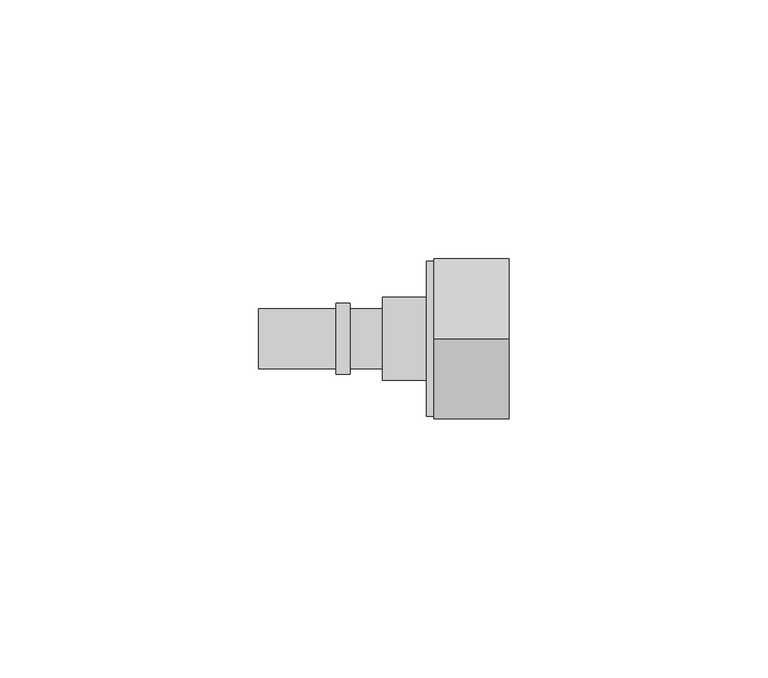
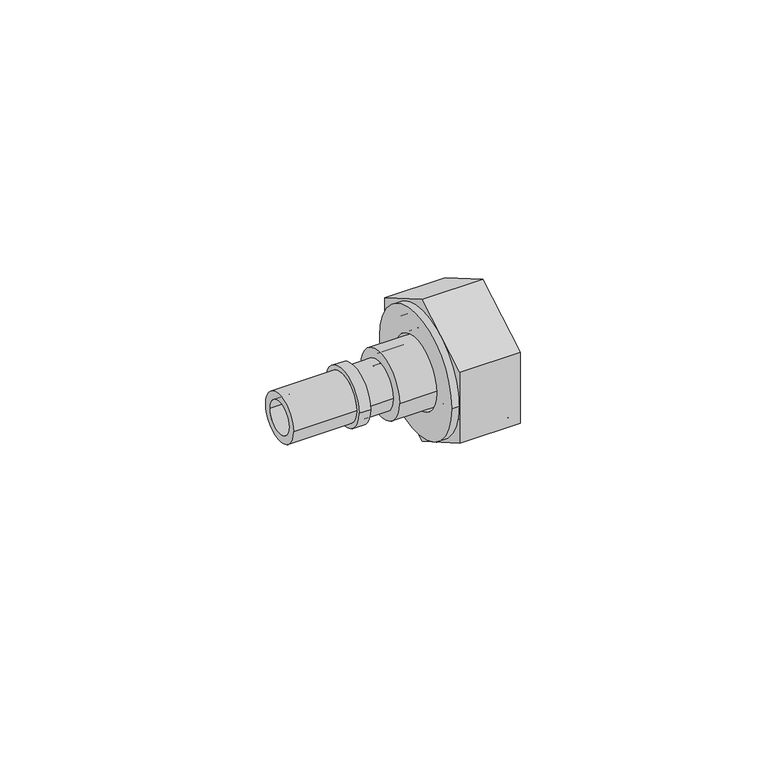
"""IFC4 building model written with IfcOpenShell, lengths in millimetres: pipe fitting geometry, FASTLOC_Adapter with union nut LX : FSL A union nut PL."""

from ifc_helpers import new_model, si_unit, point, frame, origin, origin_2d, place, context, project, spatial, polyline, circle_curve, trimmed, segment, composite_curve, outline, extrude, source, transform, mapped, element, save
from ifc_brep_helpers import plane_surface, cylinder_surface, revolved_surface, advanced_brep


def pipe_fitting_50501386(model_context):
    return source(origin(), model_context, "Body", "SolidModel", [
        advanced_brep(
        [(12.0, 8.0, 0.0), (12.0, -8.0, 0.0), (0.0, -8.0, 0.0), (0.0, 8.0, 0.0), (14.0, 12.1, 0.0), (14.0, -12.1, 0.0), (12.0, -12.1, 0.0), (12.0, 12.1, 0.0), (1.4730817, 6.25, 0.0), (1.4730817, -6.25, 0.0), (14.0, -6.25, 0.0), (14.0, 6.25, 0.0), (0.0, 4.0764556, 0.0), (0.0, -4.0764556, 0.0), (1.4730817, -4.0764556, 0.0), (1.4730817, 4.0764556, 0.0)],
        [
            (0, 1, circle_curve(frame((12.0, 0.0, 0.0), z_axis=(-1.0, 0.0, 0.0), x_axis=(0.0, -1.0, 0.0)), 8.0)),
            (1, 2),
            (2, 3, circle_curve(frame((0.0, 0.0, 0.0), z_axis=(1.0, 0.0, 0.0), x_axis=(0.0, -1.0, 0.0)), 8.0)),
            (3, 0),
            (4, 5, circle_curve(frame((14.0, 0.0, 0.0), z_axis=(-1.0, 0.0, 0.0), x_axis=(0.0, -1.0, 0.0)), 12.1)),
            (5, 6),
            (6, 7, circle_curve(frame((12.0, 0.0, 0.0), z_axis=(1.0, 0.0, 0.0), x_axis=(0.0, -1.0, 0.0)), 12.1)),
            (7, 4),
            (8, 9, circle_curve(frame((1.4730817, 0.0, 0.0), z_axis=(-1.0, 0.0, 0.0), x_axis=(0.0, -1.0, 0.0)), 6.25)),
            (9, 10),
            (10, 11, circle_curve(frame((14.0, 0.0, 0.0), z_axis=(1.0, 0.0, 0.0), x_axis=(0.0, -1.0, 0.0)), 6.25)),
            (11, 8),
            (12, 13, circle_curve(frame((0.0, 0.0, 0.0), z_axis=(-1.0, 0.0, 0.0), x_axis=(0.0, -1.0, 0.0)), 4.0764556)),
            (13, 14),
            (14, 15, circle_curve(frame((1.4730817, 0.0, 0.0), z_axis=(1.0, 0.0, 0.0), x_axis=(0.0, -1.0, 0.0)), 4.0764556)),
            (15, 12),
            (2, 3, circle_curve(frame((0.0, 0.0, 0.0), z_axis=(-1.0, 0.0, 0.0), x_axis=(0.0, 1.0, 0.0)), 8.0)),
            (12, 13, circle_curve(frame((0.0, 0.0, 0.0), z_axis=(1.0, 0.0, 0.0), x_axis=(0.0, 1.0, 0.0)), 4.0764556)),
            (1, 0, circle_curve(frame((12.0, 0.0, 0.0), z_axis=(-1.0, 0.0, 0.0), x_axis=(0.0, 1.0, 0.0)), 8.0)),
            (6, 7, circle_curve(frame((12.0, 0.0, 0.0), z_axis=(-1.0, 0.0, 0.0), x_axis=(0.0, 1.0, 0.0)), 12.1)),
            (5, 4, circle_curve(frame((14.0, 0.0, 0.0), z_axis=(-1.0, 0.0, 0.0), x_axis=(0.0, 1.0, 0.0)), 12.1)),
            (10, 11, circle_curve(frame((14.0, 0.0, 0.0), z_axis=(-1.0, 0.0, 0.0), x_axis=(0.0, 1.0, 0.0)), 6.25)),
            (9, 8, circle_curve(frame((1.4730817, 0.0, 0.0), z_axis=(-1.0, 0.0, 0.0), x_axis=(0.0, 1.0, 0.0)), 6.25)),
            (14, 15, circle_curve(frame((1.4730817, 0.0, 0.0), z_axis=(-1.0, 0.0, 0.0), x_axis=(0.0, 1.0, 0.0)), 4.0764556)),
        ],
        [
            cylinder_surface(frame((0.0, 0.0, 0.0), z_axis=(1.0, 0.0, 0.0), x_axis=(0.0, -1.0, 0.0)), 8.0),
            cylinder_surface(frame((0.0, 0.0, 0.0), z_axis=(1.0, 0.0, 0.0), x_axis=(0.0, -1.0, 0.0)), 12.1),
            revolved_surface(polyline([(14.0, -6.25, 0.0), (1.4730817, -6.25, 0.0)]), (0.0, 0.0, 0.0), (1.0, 0.0, 0.0)),
            revolved_surface(polyline([(1.4730817, -4.0764556, 0.0), (0.0, -4.0764556, 0.0)]), (0.0, 0.0, 0.0), (1.0, 0.0, 0.0)),
            plane_surface(frame((0.0, 0.0, 0.0), z_axis=(-1.0, 0.0, 0.0), x_axis=(0.0, 1.0, 0.0))),
            cylinder_surface(frame((0.0, 0.0, 0.0), z_axis=(1.0, 0.0, 0.0), x_axis=(0.0, 1.0, 0.0)), 8.0),
            plane_surface(frame((12.0, 0.0, 0.0), z_axis=(-1.0, 0.0, 0.0), x_axis=(0.0, 1.0, 0.0))),
            cylinder_surface(frame((0.0, 0.0, 0.0), z_axis=(1.0, 0.0, 0.0), x_axis=(0.0, 1.0, 0.0)), 12.1),
            plane_surface(frame((14.0, 0.0, 0.0), z_axis=(1.0, 0.0, 0.0), x_axis=(0.0, 1.0, 0.0))),
            revolved_surface(polyline([(14.0, 6.25, 0.0), (1.4730817, 6.25, 0.0)]), (0.0, 0.0, 0.0), (1.0, 0.0, 0.0)),
            plane_surface(frame((1.4730817, 0.0, 0.0), z_axis=(1.0, 0.0, 0.0), x_axis=(0.0, 1.0, 0.0))),
            revolved_surface(polyline([(1.4730817, 4.0764556, 0.0), (0.0, 4.0764556, 0.0)]), (0.0, 0.0, 0.0), (1.0, 0.0, 0.0)),
        ],
        [
            (0, [[1, 2, 3, 4]]),
            (1, [[5, 6, 7, 8]]),
            (2, [[9, 10, 11, 12]]),
            (3, [[13, 14, 15, 16]]),
            (4, [[17, -3], [18, -13]]),
            (5, [[19, -4, -17, -2]]),
            (6, [[20, -7], [-19, -1]]),
            (7, [[21, -8, -20, -6]]),
            (8, [[-21, -5], [22, -11]]),
            (9, [[23, -12, -22, -10]]),
            (10, [[-23, -9], [24, -15]]),
            (11, [[-18, -16, -24, -14]]),
        ],
    ),
        advanced_brep(
        [(24.5, 15.0, 0.0), (24.5, -15.0, 0.0), (8.5, -15.0, 0.0), (8.5, 15.0, 0.0), (12.0, 12.1, 0.0), (12.0, -12.1, 0.0), (24.5, -12.1, 0.0), (24.5, 12.1, 0.0), (8.5, 8.6, 0.0), (8.5, -8.6, 0.0), (12.0, -8.6, 0.0), (12.0, 8.6, 0.0)],
        [
            (0, 1, circle_curve(frame((24.5, 0.0, 0.0), z_axis=(-1.0, 0.0, 0.0), x_axis=(0.0, -1.0, 0.0)), 15.0)),
            (1, 2),
            (2, 3, circle_curve(frame((8.5, 0.0, 0.0), z_axis=(1.0, 0.0, 0.0), x_axis=(0.0, -1.0, 0.0)), 15.0)),
            (3, 0),
            (4, 5, circle_curve(frame((12.0, 0.0, 0.0), z_axis=(-1.0, 0.0, 0.0), x_axis=(0.0, -1.0, 0.0)), 12.1)),
            (5, 6),
            (6, 7, circle_curve(frame((24.5, 0.0, 0.0), z_axis=(1.0, 0.0, 0.0), x_axis=(0.0, -1.0, 0.0)), 12.1)),
            (7, 4),
            (8, 9, circle_curve(frame((8.5, 0.0, 0.0), z_axis=(-1.0, 0.0, 0.0), x_axis=(0.0, -1.0, 0.0)), 8.6)),
            (9, 10),
            (10, 11, circle_curve(frame((12.0, 0.0, 0.0), z_axis=(1.0, 0.0, 0.0), x_axis=(0.0, -1.0, 0.0)), 8.6)),
            (11, 8),
            (1, 0, circle_curve(frame((24.5, 0.0, 0.0), z_axis=(-1.0, 0.0, 0.0), x_axis=(0.0, 1.0, 0.0)), 15.0)),
            (3, 2, circle_curve(frame((8.5, 0.0, 0.0), z_axis=(1.0, 0.0, 0.0), x_axis=(0.0, 1.0, 0.0)), 15.0)),
            (6, 7, circle_curve(frame((24.5, 0.0, 0.0), z_axis=(-1.0, 0.0, 0.0), x_axis=(0.0, 1.0, 0.0)), 12.1)),
            (5, 4, circle_curve(frame((12.0, 0.0, 0.0), z_axis=(-1.0, 0.0, 0.0), x_axis=(0.0, 1.0, 0.0)), 12.1)),
            (10, 11, circle_curve(frame((12.0, 0.0, 0.0), z_axis=(-1.0, 0.0, 0.0), x_axis=(0.0, 1.0, 0.0)), 8.6)),
            (9, 8, circle_curve(frame((8.5, 0.0, 0.0), z_axis=(-1.0, 0.0, 0.0), x_axis=(0.0, 1.0, 0.0)), 8.6)),
        ],
        [
            cylinder_surface(frame((0.0, 0.0, 0.0), z_axis=(1.0, 0.0, 0.0), x_axis=(0.0, -1.0, 0.0)), 15.0),
            revolved_surface(polyline([(24.5, -12.1, 0.0), (12.0, -12.1, 0.0)]), (0.0, 0.0, 0.0), (1.0, 0.0, 0.0)),
            revolved_surface(polyline([(12.0, -8.6, 0.0), (8.5, -8.6, 0.0)]), (0.0, 0.0, 0.0), (1.0, 0.0, 0.0)),
            cylinder_surface(frame((0.0, 0.0, 0.0), z_axis=(1.0, 0.0, 0.0), x_axis=(0.0, 1.0, 0.0)), 15.0),
            plane_surface(frame((24.5, 0.0, 0.0), z_axis=(1.0, 0.0, 0.0), x_axis=(0.0, 1.0, 0.0))),
            revolved_surface(polyline([(24.5, 12.1, 0.0), (12.0, 12.1, 0.0)]), (0.0, 0.0, 0.0), (1.0, 0.0, 0.0)),
            plane_surface(frame((12.0, 0.0, 0.0), z_axis=(1.0, 0.0, 0.0), x_axis=(0.0, 1.0, 0.0))),
            revolved_surface(polyline([(12.0, 8.6, 0.0), (8.5, 8.6, 0.0)]), (0.0, 0.0, 0.0), (1.0, 0.0, 0.0)),
            plane_surface(frame((8.5, 0.0, 0.0), z_axis=(-1.0, 0.0, 0.0), x_axis=(0.0, 1.0, 0.0))),
        ],
        [
            (0, [[1, 2, 3, 4]]),
            (1, [[5, 6, 7, 8]]),
            (2, [[9, 10, 11, 12]]),
            (3, [[13, -4, 14, -2]]),
            (4, [[-13, -1], [15, -7]]),
            (5, [[16, -8, -15, -6]]),
            (6, [[-16, -5], [17, -11]]),
            (7, [[18, -12, -17, -10]]),
            (8, [[-14, -3], [-18, -9]]),
        ],
    ),
        extrude(outline(polyline([(0.0, -17.8978583), (-15.5, -8.9489292), (-15.5, 8.9489292), (0.0, 17.8978583), (15.5, 8.9489292), (15.5, -8.9489292), (0.0, -17.8978583)]), holes=[composite_curve([segment(trimmed(circle_curve(origin_2d(), 12.1), [point((-12.1, 0.0))], [point((12.1, 0.0))], True, "CARTESIAN"), True, "CONTINUOUS"), segment(trimmed(circle_curve(origin_2d(), 12.1), [point((12.1, 0.0))], [point((-12.1, 0.0))], True, "CARTESIAN"), True, "CONTINUOUS")], self_intersect=False)]), frame((10.0, 0.0, 0.0), z_axis=(1.0, 0.0, 0.0), x_axis=(0.0, 1.0, 0.0)), (0.0, 0.0, 1.0), 14.5),
        advanced_brep(
        [(-9.0, 5.8, 0.0), (-9.0, -5.8, 0.0), (-24.0, -5.8, 0.0), (-24.0, 5.8, 0.0), (-6.3, 6.9, 0.0), (-6.3, -6.9, 0.0), (-9.0, -6.9, 0.0), (-9.0, 6.9, 0.0), (0.0, 5.8, 0.0), (0.0, -5.8, 0.0), (-6.3, -5.8, 0.0), (-6.3, 5.8, 0.0), (-24.0, 3.95, 0.0), (-24.0, -3.95, 0.0), (0.0, -3.95, 0.0), (0.0, 3.95, 0.0)],
        [
            (0, 1, circle_curve(frame((-9.0, 0.0, 0.0), z_axis=(-1.0, 0.0, 0.0), x_axis=(0.0, -1.0, 0.0)), 5.8)),
            (1, 2),
            (2, 3, circle_curve(frame((-24.0, 0.0, 0.0), z_axis=(1.0, 0.0, 0.0), x_axis=(0.0, -1.0, 0.0)), 5.8)),
            (3, 0),
            (4, 5, circle_curve(frame((-6.3, 0.0, 0.0), z_axis=(-1.0, 0.0, 0.0), x_axis=(0.0, -1.0, 0.0)), 6.9)),
            (5, 6),
            (6, 7, circle_curve(frame((-9.0, 0.0, 0.0), z_axis=(1.0, 0.0, 0.0), x_axis=(0.0, -1.0, 0.0)), 6.9)),
            (7, 4),
            (8, 9, circle_curve(frame((0.0, 0.0, 0.0), z_axis=(-1.0, 0.0, 0.0), x_axis=(0.0, -1.0, 0.0)), 5.8)),
            (9, 10),
            (10, 11, circle_curve(frame((-6.3, 0.0, 0.0), z_axis=(1.0, 0.0, 0.0), x_axis=(0.0, -1.0, 0.0)), 5.8)),
            (11, 8),
            (12, 13, circle_curve(frame((-24.0, 0.0, 0.0), z_axis=(-1.0, 0.0, 0.0), x_axis=(0.0, -1.0, 0.0)), 3.95)),
            (13, 14),
            (14, 15, circle_curve(frame((0.0, 0.0, 0.0), z_axis=(1.0, 0.0, 0.0), x_axis=(0.0, -1.0, 0.0)), 3.95)),
            (15, 12),
            (2, 3, circle_curve(frame((-24.0, 0.0, 0.0), z_axis=(-1.0, 0.0, 0.0), x_axis=(0.0, 1.0, 0.0)), 5.8)),
            (12, 13, circle_curve(frame((-24.0, 0.0, 0.0), z_axis=(1.0, 0.0, 0.0), x_axis=(0.0, 1.0, 0.0)), 3.95)),
            (1, 0, circle_curve(frame((-9.0, 0.0, 0.0), z_axis=(-1.0, 0.0, 0.0), x_axis=(0.0, 1.0, 0.0)), 5.8)),
            (6, 7, circle_curve(frame((-9.0, 0.0, 0.0), z_axis=(-1.0, 0.0, 0.0), x_axis=(0.0, 1.0, 0.0)), 6.9)),
            (5, 4, circle_curve(frame((-6.3, 0.0, 0.0), z_axis=(-1.0, 0.0, 0.0), x_axis=(0.0, 1.0, 0.0)), 6.9)),
            (10, 11, circle_curve(frame((-6.3, 0.0, 0.0), z_axis=(-1.0, 0.0, 0.0), x_axis=(0.0, 1.0, 0.0)), 5.8)),
            (9, 8, circle_curve(frame((0.0, 0.0, 0.0), z_axis=(-1.0, 0.0, 0.0), x_axis=(0.0, 1.0, 0.0)), 5.8)),
            (14, 15, circle_curve(frame((0.0, 0.0, 0.0), z_axis=(-1.0, 0.0, 0.0), x_axis=(0.0, 1.0, 0.0)), 3.95)),
        ],
        [
            cylinder_surface(frame((0.0, 0.0, 0.0), z_axis=(1.0, 0.0, 0.0), x_axis=(0.0, -1.0, 0.0)), 5.8),
            cylinder_surface(frame((0.0, 0.0, 0.0), z_axis=(1.0, 0.0, 0.0), x_axis=(0.0, -1.0, 0.0)), 6.9),
            revolved_surface(polyline([(0.0, -3.95, 0.0), (-24.0, -3.95, 0.0)]), (0.0, 0.0, 0.0), (1.0, 0.0, 0.0)),
            plane_surface(frame((-24.0, 0.0, 0.0), z_axis=(-1.0, 0.0, 0.0), x_axis=(0.0, 1.0, 0.0))),
            cylinder_surface(frame((0.0, 0.0, 0.0), z_axis=(1.0, 0.0, 0.0), x_axis=(0.0, 1.0, 0.0)), 5.8),
            plane_surface(frame((-9.0, 0.0, 0.0), z_axis=(-1.0, 0.0, 0.0), x_axis=(0.0, 1.0, 0.0))),
            cylinder_surface(frame((0.0, 0.0, 0.0), z_axis=(1.0, 0.0, 0.0), x_axis=(0.0, 1.0, 0.0)), 6.9),
            plane_surface(frame((-6.3, 0.0, 0.0), z_axis=(1.0, 0.0, 0.0), x_axis=(0.0, 1.0, 0.0))),
            plane_surface(frame((0.0, 0.0, 0.0), z_axis=(1.0, 0.0, 0.0), x_axis=(0.0, 1.0, 0.0))),
            revolved_surface(polyline([(0.0, 3.95, 0.0), (-24.0, 3.95, 0.0)]), (0.0, 0.0, 0.0), (1.0, 0.0, 0.0)),
        ],
        [
            (0, [[1, 2, 3, 4]]),
            (1, [[5, 6, 7, 8]]),
            (0, [[9, 10, 11, 12]]),
            (2, [[13, 14, 15, 16]]),
            (3, [[17, -3], [18, -13]]),
            (4, [[19, -4, -17, -2]]),
            (5, [[20, -7], [-19, -1]]),
            (6, [[21, -8, -20, -6]]),
            (7, [[-21, -5], [22, -11]]),
            (4, [[23, -12, -22, -10]]),
            (8, [[-23, -9], [24, -15]]),
            (9, [[-18, -16, -24, -14]]),
        ],
    ),
    ])


if __name__ == "__main__":
    model = new_model("IFC4")
    model_context = context("Model", 3, world=origin())
    ifc_project = project(units=[si_unit("LENGTHUNIT", "METRE", prefix="MILLI")], contexts=[model_context])
    site = spatial("IfcSite", under=ifc_project)
    building = spatial("IfcBuilding", under=site)
    placement = place(None, origin())
    pipe_fitting_shape = pipe_fitting_50501386(model_context)
    element("IfcPipeFitting", 1, ObjectType="FASTLOC_Adapter with union nut LX : FSL A union nut PL", at=placement, inside=building, context=model_context, shape_type="MappedRepresentation", body=[
        mapped(pipe_fitting_shape, transform((0.0, 0.0, 0.0), x_axis=(1.0, 0.0, 0.0), y_axis=(0.0, 1.0, 0.0), z_axis=(0.0, 0.0, 1.0))),
    ])
    save(model, "model.ifc")
